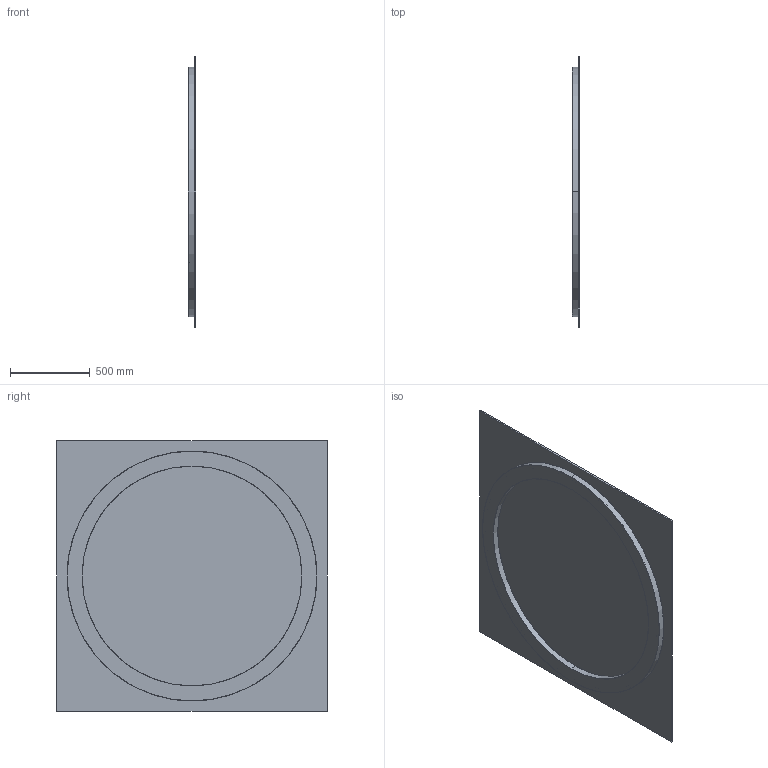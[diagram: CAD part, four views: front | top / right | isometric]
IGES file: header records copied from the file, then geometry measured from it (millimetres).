
Start section: SolidWorks IGES file using analytic representation for surfaces
Global section: file name: C:\Users\Stagiaire\Desktop\Rendu 3D\Micro BLADE circle\Micro BLADE circle 150\768_Micro_BLADE_circle_150.IGS; native system: SolidWorks 2014; preprocessor: SolidWorks 2014; author: Stagiaire; date: 140915.113232; units: millimetre
Bounding box: 50 x 1700 x 1700 mm (x, y, z)
Surface area: 7423206.7 mm2 (no closed solid volume)
Topology: 0 solids, 0 shells, 50 faces, 944 edges, 944 vertices
Faces by surface type: revolution 34, bspline 16
